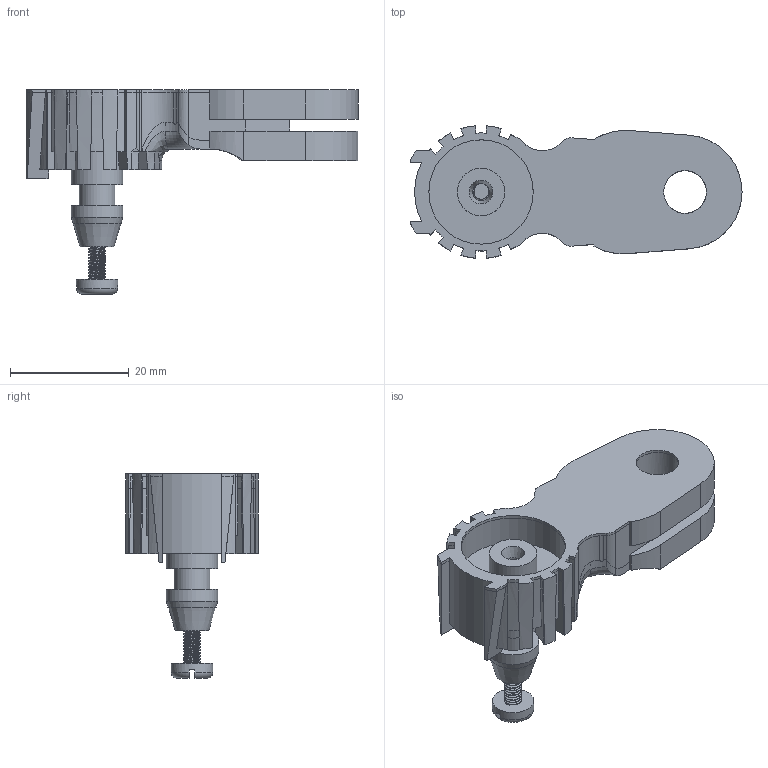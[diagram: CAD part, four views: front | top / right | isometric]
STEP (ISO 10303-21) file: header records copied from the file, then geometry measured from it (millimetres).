
FILE_DESCRIPTION(/* description */ (''),/* implementation_level */ '2;1');
FILE_NAME(/* name */ 'D:/Descargas/VW hood v24.step',/* time_stamp */ '2021-12-21T20:57:34+00:00',/* author */ (''),/* organization */ (''),/* preprocessor_version */ 'ST-DEVELOPER v18.1',/* originating_system */ 'Autodesk Translation Framework v10.10.0.1391',/* authorisation */ '');
FILE_SCHEMA (('AUTOMOTIVE_DESIGN { 1 0 10303 214 3 1 1 }'));
Length unit declared in the file: millimetre
Products named in the file (1): VW hood
Bounding box: 55.98 x 22.33 x 34.5 mm (x, y, z)
Volume: 16438.4 mm3; surface area: 11423.3 mm2
Topology: 3 solids, 3 shells, 364 faces, 1015 edges, 662 vertices
Faces by surface type: plane 197, cylinder 143, torus 12, bspline 8, cone 4
Full cylindrical faces by diameter (mm): 2.356 x6, 2.927 x10, 3 x2, 6 x2, 7 x1, 7.2 x2, 8 x2, 8.7 x4, 14.4 x2, 17.6 x2
Entity records: 14439 total; most frequent: CARTESIAN_POINT 4881, DIRECTION 2049, ORIENTED_EDGE 2030, EDGE_CURVE 1015, AXIS2_PLACEMENT_3D 793, VERTEX_POINT 662, LINE 463, VECTOR 463
